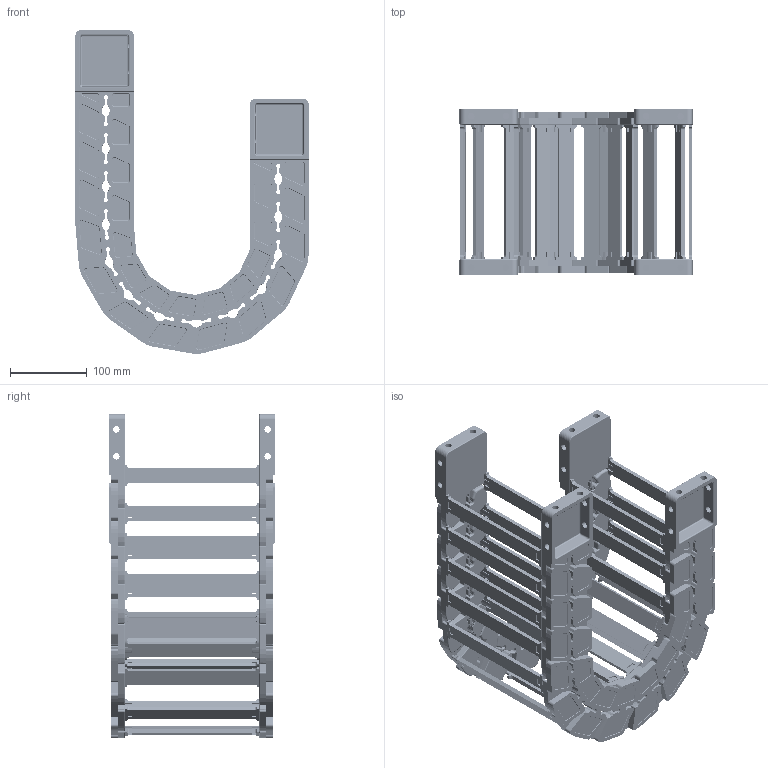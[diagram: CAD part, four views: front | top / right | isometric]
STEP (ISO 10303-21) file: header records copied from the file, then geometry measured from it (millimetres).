
FILE_DESCRIPTION((''),'2;1');
FILE_NAME('65X175-R115_ASM','2026-01-08T15:36:34',('admin'),(''),'CREO PARAMETRIC BY PTC INC, 2021023','CREO PARAMETRIC BY PTC INC, 2021023','');
FILE_SCHEMA(('CONFIG_CONTROL_DESIGN'));
Length unit declared in the file: millimetre
Products named in the file (9): 65ZT-R115-L; 25QSYP; 65ZT-R115-R; ASM0001_ASM; 65-LTT-A1; 65-LTT-A2; 65-LTT-B1; 65-LTT-B2; 65X175-R115_ASM
Assembly tree (24 placements, depth 3):
  65X175-R115_ASM
    ASM0001_ASM  x12
      65ZT-R115-L
      25QSYP
      65ZT-R115-R
    65-LTT-A1
    65-LTT-A2
    65-LTT-B1
    65-LTT-B2
    25QSYP  x4
Bounding box: 304.01 x 215.5 x 422.16 mm (x, y, z)
Volume: 2046501.5 mm3; surface area: 765268.2 mm2
Topology: 56 solids, 56 shells, 6642 faces, 18048 edges, 11370 vertices
Faces by surface type: plane 2522, cylinder 2302, bspline 820, cone 402, torus 258, extrusion 182, sphere 156
Entity records: 42107 total; most frequent: CARTESIAN_POINT 14712, ORIENTED_EDGE 5932, DIRECTION 5416, EDGE_CURVE 2966, AXIS2_PLACEMENT_3D 1964, VERTEX_POINT 1874, VECTOR 1488, LINE 1460
